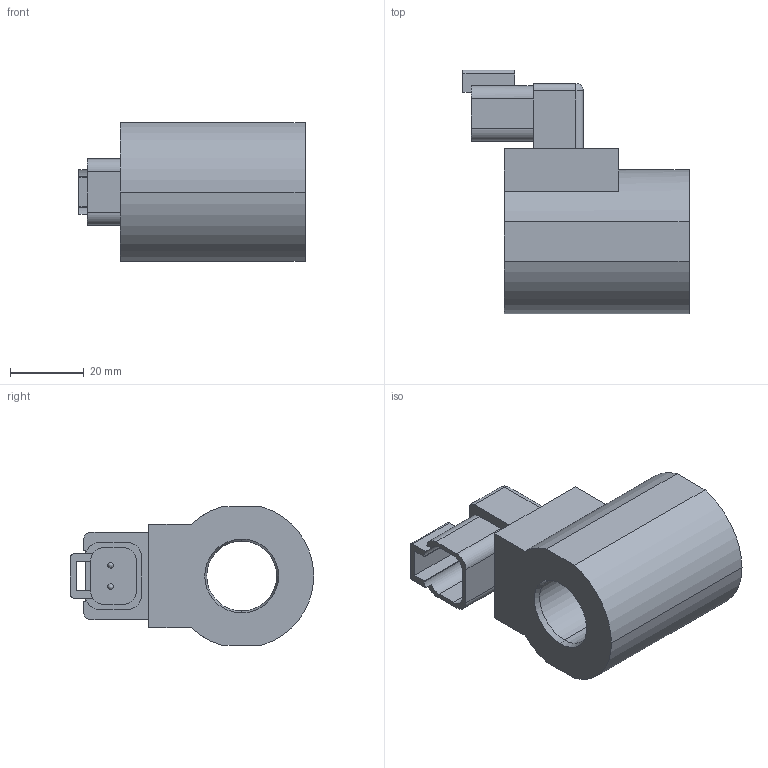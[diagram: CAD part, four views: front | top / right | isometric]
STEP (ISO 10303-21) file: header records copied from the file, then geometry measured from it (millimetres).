
FILE_DESCRIPTION (( 'STEP AP214' ), '1' );
FILE_NAME ('KG35_16.STEP', '2014-01-22T14:00:27', ( '' ), ( '' ), 'SwSTEP 2.0', 'SolidWorks 2012', '' );
FILE_SCHEMA (( 'AUTOMOTIVE_DESIGN' ));
Length unit declared in the file: millimetre
Products named in the file (1): KG35_16
Bounding box: 61.2 x 65.9 x 37.5 mm (x, y, z)
Volume: 58816.6 mm3; surface area: 15359.9 mm2
Topology: 1 solids, 1 shells, 68 faces, 190 edges, 120 vertices
Faces by surface type: plane 36, cylinder 24, cone 4, bspline 4
Entity records: 2971 total; most frequent: CARTESIAN_POINT 433, DIRECTION 378, ORIENTED_EDGE 368, EDGE_CURVE 184, AXIS2_PLACEMENT_3D 129, LINE 120, VECTOR 120, VERTEX_POINT 120
